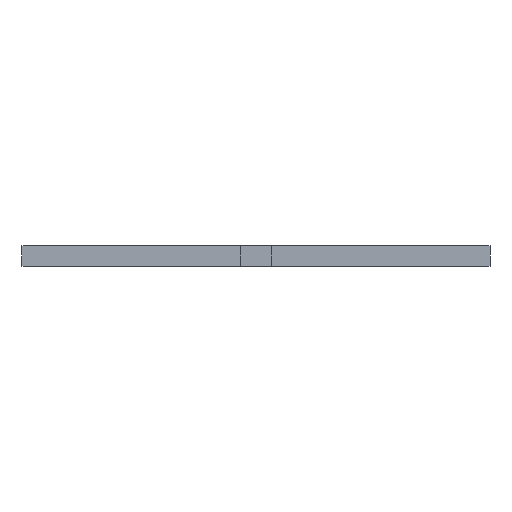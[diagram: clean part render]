
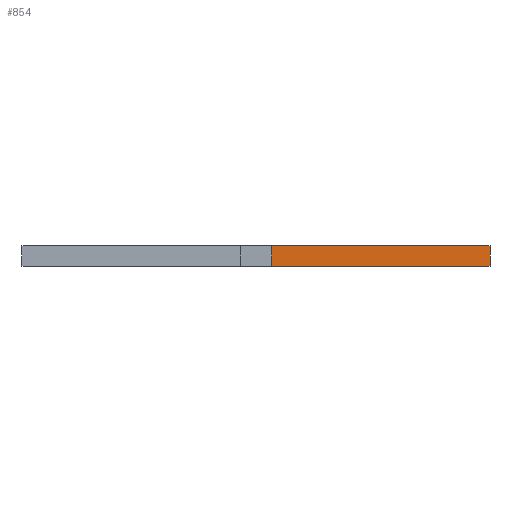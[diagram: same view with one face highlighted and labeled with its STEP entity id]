
A CAD part, left-side view. The second image highlights one B-rep face of the part: STEP entity #854.
In plain terms, the highlighted planar face has unit normal (-1, 0, 0).
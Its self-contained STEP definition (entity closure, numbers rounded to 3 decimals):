
#72 = PLANE('',#73);
#73 = AXIS2_PLACEMENT_3D('',#74,#75,#76);
#74 = CARTESIAN_POINT('',(55.,-0.3,12.));
#75 = DIRECTION('',(-0.,-0.,1.));
#76 = DIRECTION('',(1.,0.,0.));
#126 = PLANE('',#127);
#127 = AXIS2_PLACEMENT_3D('',#128,#129,#130);
#128 = CARTESIAN_POINT('',(55.,-0.3,12.4));
#129 = DIRECTION('',(-0.,-0.,1.));
#130 = DIRECTION('',(1.,0.,0.));
#266 = VERTEX_POINT('',#267);
#267 = CARTESIAN_POINT('',(47.7,-4.5,12.4));
#281 = PLANE('',#282);
#282 = AXIS2_PLACEMENT_3D('',#283,#284,#285);
#283 = CARTESIAN_POINT('',(48.3,-4.5,12.));
#284 = DIRECTION('',(-0.,1.,0.));
#285 = DIRECTION('',(0.,0.,-1.));
#293 = EDGE_CURVE('',#266,#294,#296,.T.);
#294 = VERTEX_POINT('',#295);
#295 = CARTESIAN_POINT('',(47.7,-0.3,12.4));
#296 = SURFACE_CURVE('',#297,(#301,#308),.PCURVE_S1.);
#297 = LINE('',#298,#299);
#298 = CARTESIAN_POINT('',(47.7,-4.5,12.4));
#299 = VECTOR('',#300,1.);
#300 = DIRECTION('',(-0.,1.,0.));
#301 = PCURVE('',#126,#302);
#302 = DEFINITIONAL_REPRESENTATION('',(#303),#307);
#303 = LINE('',#304,#305);
#304 = CARTESIAN_POINT('',(-7.3,-4.2));
#305 = VECTOR('',#306,1.);
#306 = DIRECTION('',(0.,1.));
#307 = ( GEOMETRIC_REPRESENTATION_CONTEXT(2) 
PARAMETRIC_REPRESENTATION_CONTEXT() REPRESENTATION_CONTEXT('2D SPACE',''
  ) );
#308 = PCURVE('',#309,#314);
#309 = PLANE('',#310);
#310 = AXIS2_PLACEMENT_3D('',#311,#312,#313);
#311 = CARTESIAN_POINT('',(47.7,-4.5,12.));
#312 = DIRECTION('',(-1.,-0.,0.));
#313 = DIRECTION('',(0.,0.,-1.));
#314 = DEFINITIONAL_REPRESENTATION('',(#315),#319);
#315 = LINE('',#316,#317);
#316 = CARTESIAN_POINT('',(-0.4,-0.));
#317 = VECTOR('',#318,1.);
#318 = DIRECTION('',(-0.,-1.));
#319 = ( GEOMETRIC_REPRESENTATION_CONTEXT(2) 
PARAMETRIC_REPRESENTATION_CONTEXT() REPRESENTATION_CONTEXT('2D SPACE',''
  ) );
#337 = PLANE('',#338);
#338 = AXIS2_PLACEMENT_3D('',#339,#340,#341);
#339 = CARTESIAN_POINT('',(55.,-0.3,12.));
#340 = DIRECTION('',(-0.,1.,0.));
#341 = DIRECTION('',(0.,0.,-1.));
#566 = VERTEX_POINT('',#567);
#567 = CARTESIAN_POINT('',(47.7,-4.5,12.));
#588 = EDGE_CURVE('',#566,#589,#591,.T.);
#589 = VERTEX_POINT('',#590);
#590 = CARTESIAN_POINT('',(47.7,-0.3,12.));
#591 = SURFACE_CURVE('',#592,(#596,#603),.PCURVE_S1.);
#592 = LINE('',#593,#594);
#593 = CARTESIAN_POINT('',(47.7,-4.5,12.));
#594 = VECTOR('',#595,1.);
#595 = DIRECTION('',(-0.,1.,0.));
#596 = PCURVE('',#72,#597);
#597 = DEFINITIONAL_REPRESENTATION('',(#598),#602);
#598 = LINE('',#599,#600);
#599 = CARTESIAN_POINT('',(-7.3,-4.2));
#600 = VECTOR('',#601,1.);
#601 = DIRECTION('',(0.,1.));
#602 = ( GEOMETRIC_REPRESENTATION_CONTEXT(2) 
PARAMETRIC_REPRESENTATION_CONTEXT() REPRESENTATION_CONTEXT('2D SPACE',''
  ) );
#603 = PCURVE('',#309,#604);
#604 = DEFINITIONAL_REPRESENTATION('',(#605),#609);
#605 = LINE('',#606,#607);
#606 = CARTESIAN_POINT('',(-0.,-0.));
#607 = VECTOR('',#608,1.);
#608 = DIRECTION('',(-0.,-1.));
#609 = ( GEOMETRIC_REPRESENTATION_CONTEXT(2) 
PARAMETRIC_REPRESENTATION_CONTEXT() REPRESENTATION_CONTEXT('2D SPACE',''
  ) );
#807 = EDGE_CURVE('',#566,#266,#808,.T.);
#808 = SURFACE_CURVE('',#809,(#813,#820),.PCURVE_S1.);
#809 = LINE('',#810,#811);
#810 = CARTESIAN_POINT('',(47.7,-4.5,12.));
#811 = VECTOR('',#812,1.);
#812 = DIRECTION('',(0.,0.,1.));
#813 = PCURVE('',#281,#814);
#814 = DEFINITIONAL_REPRESENTATION('',(#815),#819);
#815 = LINE('',#816,#817);
#816 = CARTESIAN_POINT('',(-0.,0.6));
#817 = VECTOR('',#818,1.);
#818 = DIRECTION('',(-1.,0.));
#819 = ( GEOMETRIC_REPRESENTATION_CONTEXT(2) 
PARAMETRIC_REPRESENTATION_CONTEXT() REPRESENTATION_CONTEXT('2D SPACE',''
  ) );
#820 = PCURVE('',#309,#821);
#821 = DEFINITIONAL_REPRESENTATION('',(#822),#826);
#822 = LINE('',#823,#824);
#823 = CARTESIAN_POINT('',(-0.,-0.));
#824 = VECTOR('',#825,1.);
#825 = DIRECTION('',(-1.,-0.));
#826 = ( GEOMETRIC_REPRESENTATION_CONTEXT(2) 
PARAMETRIC_REPRESENTATION_CONTEXT() REPRESENTATION_CONTEXT('2D SPACE',''
  ) );
#854 = ADVANCED_FACE('',(#855),#309,.T.);
#855 = FACE_BOUND('',#856,.F.);
#856 = EDGE_LOOP('',(#857,#858,#859,#860));
#857 = ORIENTED_EDGE('',*,*,#293,.F.);
#858 = ORIENTED_EDGE('',*,*,#807,.F.);
#859 = ORIENTED_EDGE('',*,*,#588,.T.);
#860 = ORIENTED_EDGE('',*,*,#861,.F.);
#861 = EDGE_CURVE('',#294,#589,#862,.T.);
#862 = SURFACE_CURVE('',#863,(#867,#874),.PCURVE_S1.);
#863 = LINE('',#864,#865);
#864 = CARTESIAN_POINT('',(47.7,-0.3,12.));
#865 = VECTOR('',#866,1.);
#866 = DIRECTION('',(-0.,-0.,-1.));
#867 = PCURVE('',#309,#868);
#868 = DEFINITIONAL_REPRESENTATION('',(#869),#873);
#869 = LINE('',#870,#871);
#870 = CARTESIAN_POINT('',(-0.,-4.2));
#871 = VECTOR('',#872,1.);
#872 = DIRECTION('',(1.,-0.));
#873 = ( GEOMETRIC_REPRESENTATION_CONTEXT(2) 
PARAMETRIC_REPRESENTATION_CONTEXT() REPRESENTATION_CONTEXT('2D SPACE',''
  ) );
#874 = PCURVE('',#337,#875);
#875 = DEFINITIONAL_REPRESENTATION('',(#876),#880);
#876 = LINE('',#877,#878);
#877 = CARTESIAN_POINT('',(-0.,7.3));
#878 = VECTOR('',#879,1.);
#879 = DIRECTION('',(1.,-0.));
#880 = ( GEOMETRIC_REPRESENTATION_CONTEXT(2) 
PARAMETRIC_REPRESENTATION_CONTEXT() REPRESENTATION_CONTEXT('2D SPACE',''
  ) );
